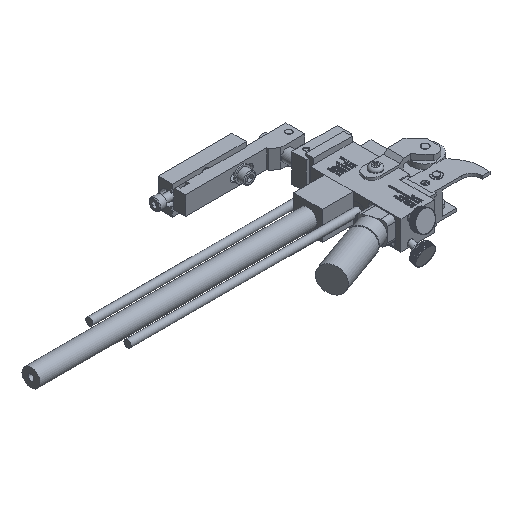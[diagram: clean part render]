
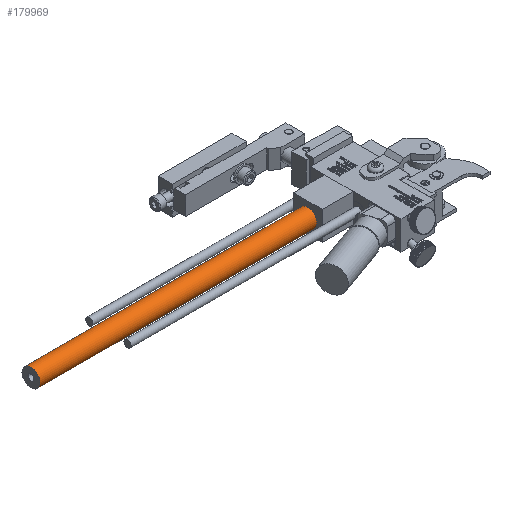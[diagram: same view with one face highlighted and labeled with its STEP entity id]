
A CAD part, isometric view. The second image highlights one B-rep face of the part: STEP entity #179969.
In plain terms, the highlighted cylindrical face has radius 5.969 mm (diameter 11.938 mm), a full revolution.
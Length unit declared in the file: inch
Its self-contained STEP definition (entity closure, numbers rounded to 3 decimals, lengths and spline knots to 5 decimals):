
#179647=CARTESIAN_POINT('',(-1.4995,0.8125,0.61));
#179648=VERTEX_POINT('',#179647);
#179649=CARTESIAN_POINT('',(-1.4995,0.8125,0.375));
#179650=DIRECTION('',(1.0,0.0,0.0));
#179651=DIRECTION('',(0.0,0.0,-1.0));
#179652=AXIS2_PLACEMENT_3D('',#179649,#179650,#179651);
#179653=CIRCLE('',#179652,0.235);
#179654=EDGE_CURVE('',#179648,#179648,#179653,.T.);
#179935=CARTESIAN_POINT('',(-8.7495,0.8125,0.61));
#179936=VERTEX_POINT('',#179935);
#179937=CARTESIAN_POINT('',(-8.7495,0.8125,0.375));
#179938=DIRECTION('',(1.0,0.0,0.0));
#179939=DIRECTION('',(0.0,0.0,-1.0));
#179940=AXIS2_PLACEMENT_3D('',#179937,#179938,#179939);
#179941=CIRCLE('',#179940,0.235);
#179942=EDGE_CURVE('',#179936,#179936,#179941,.T.);
#179958=CARTESIAN_POINT('',(-1.4995,0.8125,0.375));
#179959=DIRECTION('',(-1.0,0.,0.));
#179960=DIRECTION('',(0.0,0.0,-1.0));
#179961=AXIS2_PLACEMENT_3D('',#179958,#179959,#179960);
#179962=CYLINDRICAL_SURFACE('',#179961,0.235);
#179963=ORIENTED_EDGE('',*,*,#179942,.T.);
#179964=EDGE_LOOP('',(#179963));
#179965=FACE_OUTER_BOUND('',#179964,.T.);
#179966=ORIENTED_EDGE('',*,*,#179654,.F.);
#179967=EDGE_LOOP('',(#179966));
#179968=FACE_BOUND('',#179967,.T.);
#179969=ADVANCED_FACE('',(#179965,#179968),#179962,.T.);
